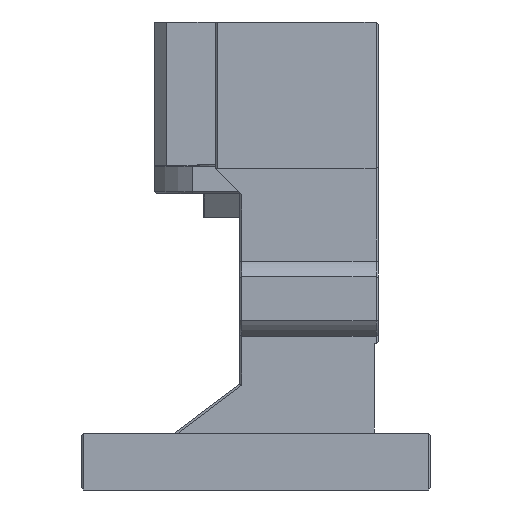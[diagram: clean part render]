
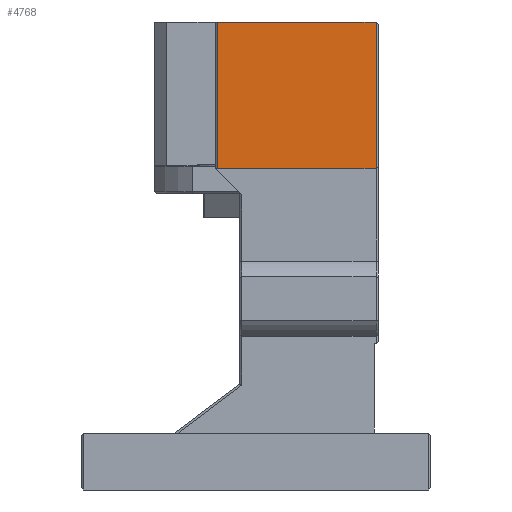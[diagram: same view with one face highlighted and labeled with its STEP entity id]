
A CAD part, left-side view. The second image highlights one B-rep face of the part: STEP entity #4768.
In plain terms, the highlighted planar face has unit normal (-1, 0, 0).
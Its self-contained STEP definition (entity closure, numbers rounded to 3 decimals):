
#134 = CARTESIAN_POINT ( 'NONE',  ( -44., 9.5, 6. ) ) ;
#734 = PLANE ( 'NONE',  #5125 ) ;
#1011 = ORIENTED_EDGE ( 'NONE', *, *, #8195, .T. ) ;
#1192 = CARTESIAN_POINT ( 'NONE',  ( -44., 9.5, -30. ) ) ;
#1338 = VECTOR ( 'NONE', #2184, 1000. ) ;
#1499 = DIRECTION ( 'NONE',  ( -1., 0., 0. ) ) ;
#1977 = DIRECTION ( 'NONE',  ( 0., 0., -1. ) ) ;
#2184 = DIRECTION ( 'NONE',  ( 0., -1., 0. ) ) ;
#2210 = VERTEX_POINT ( 'NONE', #5686 ) ;
#2654 = CARTESIAN_POINT ( 'NONE',  ( -44., -29.5, -30. ) ) ;
#2861 = EDGE_LOOP ( 'NONE', ( #7383, #5358, #1011, #7751 ) ) ;
#2948 = VERTEX_POINT ( 'NONE', #2654 ) ;
#3236 = LINE ( 'NONE', #4092, #6831 ) ;
#3735 = CARTESIAN_POINT ( 'NONE',  ( -44., 10., 6. ) ) ;
#3806 = EDGE_CURVE ( 'NONE', #9192, #2210, #7619, .T. ) ;
#4030 = VERTEX_POINT ( 'NONE', #4576 ) ;
#4092 = CARTESIAN_POINT ( 'NONE',  ( -44., 10., -30. ) ) ;
#4436 = LINE ( 'NONE', #7989, #6214 ) ;
#4576 = CARTESIAN_POINT ( 'NONE',  ( -44., -29.5, 6. ) ) ;
#4768 = ADVANCED_FACE ( 'NONE', ( #6042 ), #734, .T. ) ;
#5125 = AXIS2_PLACEMENT_3D ( 'NONE', #6105, #1499, #6869 ) ;
#5358 = ORIENTED_EDGE ( 'NONE', *, *, #3806, .T. ) ;
#5588 = VECTOR ( 'NONE', #1977, 1000. ) ;
#5686 = CARTESIAN_POINT ( 'NONE',  ( -44., 9.5, -30. ) ) ;
#6042 = FACE_OUTER_BOUND ( 'NONE', #2861, .T. ) ;
#6105 = CARTESIAN_POINT ( 'NONE',  ( -44., 10., -30. ) ) ;
#6214 = VECTOR ( 'NONE', #7214, 1000. ) ;
#6526 = EDGE_CURVE ( 'NONE', #9192, #4030, #9518, .T. ) ;
#6831 = VECTOR ( 'NONE', #8682, 1000. ) ;
#6869 = DIRECTION ( 'NONE',  ( 0., 0., 1. ) ) ;
#7214 = DIRECTION ( 'NONE',  ( 0., 0., 1. ) ) ;
#7383 = ORIENTED_EDGE ( 'NONE', *, *, #6526, .F. ) ;
#7619 = LINE ( 'NONE', #1192, #5588 ) ;
#7751 = ORIENTED_EDGE ( 'NONE', *, *, #9868, .T. ) ;
#7989 = CARTESIAN_POINT ( 'NONE',  ( -44., -29.5, -30. ) ) ;
#8195 = EDGE_CURVE ( 'NONE', #2210, #2948, #3236, .T. ) ;
#8682 = DIRECTION ( 'NONE',  ( 0., -1., 0. ) ) ;
#9192 = VERTEX_POINT ( 'NONE', #134 ) ;
#9518 = LINE ( 'NONE', #3735, #1338 ) ;
#9868 = EDGE_CURVE ( 'NONE', #2948, #4030, #4436, .T. ) ;
